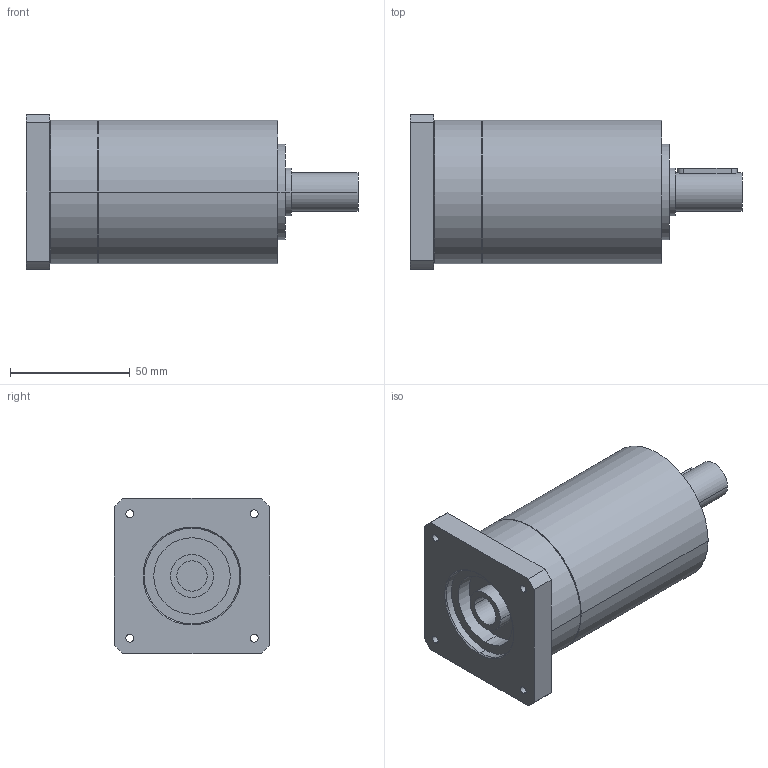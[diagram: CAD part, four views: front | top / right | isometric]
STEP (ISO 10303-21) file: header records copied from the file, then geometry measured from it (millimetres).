
FILE_DESCRIPTION(('CoCreate Modeling STEP Export'),'2;1');
FILE_NAME('GPR75_ig-9-12-16-20-24-30-36_16_B14_12.7_P34.stp','2014-08-25T16:02:06',(''),(''),'CoCreate Modeling STEP processor for AP214 (Solid Model)','CoCreate Modeling 16.00C 25-Feb-2009 (C) Parametric Technology GmbH','');
FILE_SCHEMA(('AUTOMOTIVE_DESIGN { 1 0 10303 214 1 1 1 1 }'));
Length unit declared in the file: millimetre
Products named in the file (2): GPR75_ig-9-12-16-20-24-30-36_16_B14_12.7_P34
Assembly tree (1 placements, depth 2):
  GPR75_ig-9-12-16-20-24-30-36_16_B14_12.7_P34
    GPR75_ig-9-12-16-20-24-30-36_16_B14_12.7_P34
Bounding box: 138.9 x 65 x 65 mm (x, y, z)
Volume: 309251.2 mm3; surface area: 34837.4 mm2
Topology: 1 solids, 1 shells, 72 faces, 189 edges, 131 vertices
Faces by surface type: cylinder 42, plane 22, cone 8
Entity records: 1964 total; most frequent: ORIENTED_EDGE 374, CARTESIAN_POINT 363, DIRECTION 268, EDGE_CURVE 187, VERTEX_POINT 131, AXIS2_PLACEMENT_3D 100, EDGE_LOOP 94, FACE_OUTER_BOUND 72
